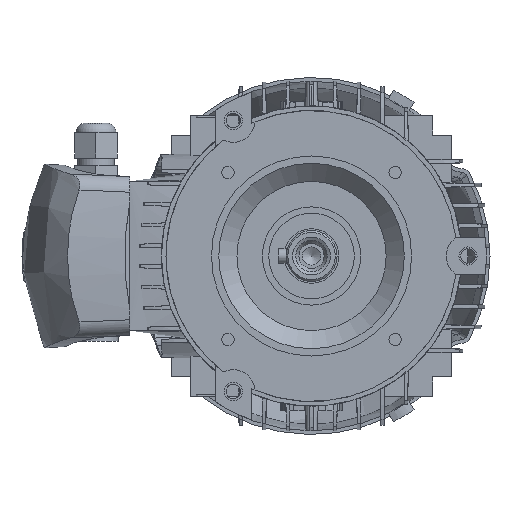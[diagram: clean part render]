
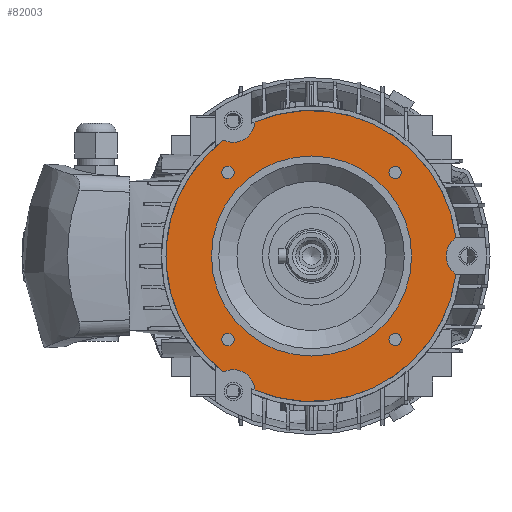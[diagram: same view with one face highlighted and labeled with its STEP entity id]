
A CAD part, left-side view. The second image highlights one B-rep face of the part: STEP entity #82003.
In plain terms, the highlighted planar face has unit normal (-1, 0, 0).
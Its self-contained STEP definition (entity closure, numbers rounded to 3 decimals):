
#81887=CARTESIAN_POINT('',(3.5,82.5,0.0));
#81888=DIRECTION('',(-1.0,0.0,0.0));
#81889=DIRECTION('',(0.0,0.0,1.0));
#81890=AXIS2_PLACEMENT_3D('',#81887,#81888,#81889);
#81891=PLANE('',#81890);
#81892=CARTESIAN_POINT('',(3.5,-79.372,-10.004));
#81893=VERTEX_POINT('',#81892);
#81894=CARTESIAN_POINT('',(3.5,-79.372,10.004));
#81895=VERTEX_POINT('',#81894);
#81896=CARTESIAN_POINT('',(3.5,-86.0,0.0));
#81897=DIRECTION('',(1.0,0.0,0.0));
#81898=DIRECTION('',(0.0,0.0,1.0));
#81899=AXIS2_PLACEMENT_3D('',#81896,#81897,#81898);
#81900=CIRCLE('',#81899,12.);
#81901=EDGE_CURVE('',#81893,#81895,#81900,.T.);
#81902=ORIENTED_EDGE('',*,*,#81901,.T.);
#81903=CARTESIAN_POINT('',(3.5,31.023,73.74));
#81904=VERTEX_POINT('',#81903);
#81905=CARTESIAN_POINT('',(3.5,0.0,0.0));
#81906=DIRECTION('',(-1.0,0.0,0.0));
#81907=DIRECTION('',(0.0,0.0,1.0));
#81908=AXIS2_PLACEMENT_3D('',#81905,#81906,#81907);
#81909=CIRCLE('',#81908,80.0);
#81910=EDGE_CURVE('',#81895,#81904,#81909,.T.);
#81911=ORIENTED_EDGE('',*,*,#81910,.T.);
#81912=CARTESIAN_POINT('',(3.5,48.349,63.736));
#81913=VERTEX_POINT('',#81912);
#81914=CARTESIAN_POINT('',(3.5,43.,74.478));
#81915=DIRECTION('',(1.0,0.0,0.0));
#81916=DIRECTION('',(0.0,0.0,1.0));
#81917=AXIS2_PLACEMENT_3D('',#81914,#81915,#81916);
#81918=CIRCLE('',#81917,12.);
#81919=EDGE_CURVE('',#81904,#81913,#81918,.T.);
#81920=ORIENTED_EDGE('',*,*,#81919,.T.);
#81921=CARTESIAN_POINT('',(3.5,48.349,-63.736));
#81922=VERTEX_POINT('',#81921);
#81923=CARTESIAN_POINT('',(3.5,0.0,0.0));
#81924=DIRECTION('',(-1.0,0.0,0.0));
#81925=DIRECTION('',(0.0,0.0,1.0));
#81926=AXIS2_PLACEMENT_3D('',#81923,#81924,#81925);
#81927=CIRCLE('',#81926,80.0);
#81928=EDGE_CURVE('',#81913,#81922,#81927,.T.);
#81929=ORIENTED_EDGE('',*,*,#81928,.T.);
#81930=CARTESIAN_POINT('',(3.5,31.023,-73.74));
#81931=VERTEX_POINT('',#81930);
#81932=CARTESIAN_POINT('',(3.5,43.,-74.478));
#81933=DIRECTION('',(1.0,0.0,0.0));
#81934=DIRECTION('',(0.0,0.0,1.0));
#81935=AXIS2_PLACEMENT_3D('',#81932,#81933,#81934);
#81936=CIRCLE('',#81935,12.);
#81937=EDGE_CURVE('',#81922,#81931,#81936,.T.);
#81938=ORIENTED_EDGE('',*,*,#81937,.T.);
#81939=CARTESIAN_POINT('',(3.5,0.0,0.0));
#81940=DIRECTION('',(-1.0,0.0,0.0));
#81941=DIRECTION('',(0.0,0.0,1.0));
#81942=AXIS2_PLACEMENT_3D('',#81939,#81940,#81941);
#81943=CIRCLE('',#81942,80.0);
#81944=EDGE_CURVE('',#81931,#81893,#81943,.T.);
#81945=ORIENTED_EDGE('',*,*,#81944,.T.);
#81946=EDGE_LOOP('',(#81902,#81911,#81920,#81929,#81938,#81945));
#81947=FACE_OUTER_BOUND('',#81946,.T.);
#81948=CARTESIAN_POINT('',(3.5,45.962,42.562));
#81949=VERTEX_POINT('',#81948);
#81950=CARTESIAN_POINT('',(3.5,45.962,45.962));
#81951=DIRECTION('',(1.0,0.0,0.0));
#81952=DIRECTION('',(0.0,0.0,-1.0));
#81953=AXIS2_PLACEMENT_3D('',#81950,#81951,#81952);
#81954=CIRCLE('',#81953,3.4);
#81955=EDGE_CURVE('',#81949,#81949,#81954,.T.);
#81956=ORIENTED_EDGE('',*,*,#81955,.T.);
#81957=EDGE_LOOP('',(#81956));
#81958=FACE_BOUND('',#81957,.T.);
#81959=CARTESIAN_POINT('',(3.5,-45.962,42.562));
#81960=VERTEX_POINT('',#81959);
#81961=CARTESIAN_POINT('',(3.5,-45.962,45.962));
#81962=DIRECTION('',(1.0,0.0,0.0));
#81963=DIRECTION('',(0.0,0.0,-1.0));
#81964=AXIS2_PLACEMENT_3D('',#81961,#81962,#81963);
#81965=CIRCLE('',#81964,3.4);
#81966=EDGE_CURVE('',#81960,#81960,#81965,.T.);
#81967=ORIENTED_EDGE('',*,*,#81966,.T.);
#81968=EDGE_LOOP('',(#81967));
#81969=FACE_BOUND('',#81968,.T.);
#81970=CARTESIAN_POINT('',(3.5,-45.962,-49.362));
#81971=VERTEX_POINT('',#81970);
#81972=CARTESIAN_POINT('',(3.5,-45.962,-45.962));
#81973=DIRECTION('',(1.0,0.0,0.0));
#81974=DIRECTION('',(0.0,0.0,-1.0));
#81975=AXIS2_PLACEMENT_3D('',#81972,#81973,#81974);
#81976=CIRCLE('',#81975,3.4);
#81977=EDGE_CURVE('',#81971,#81971,#81976,.T.);
#81978=ORIENTED_EDGE('',*,*,#81977,.T.);
#81979=EDGE_LOOP('',(#81978));
#81980=FACE_BOUND('',#81979,.T.);
#81981=CARTESIAN_POINT('',(3.5,45.962,-49.362));
#81982=VERTEX_POINT('',#81981);
#81983=CARTESIAN_POINT('',(3.5,45.962,-45.962));
#81984=DIRECTION('',(1.0,0.0,0.0));
#81985=DIRECTION('',(0.0,0.0,-1.0));
#81986=AXIS2_PLACEMENT_3D('',#81983,#81984,#81985);
#81987=CIRCLE('',#81986,3.4);
#81988=EDGE_CURVE('',#81982,#81982,#81987,.T.);
#81989=ORIENTED_EDGE('',*,*,#81988,.T.);
#81990=EDGE_LOOP('',(#81989));
#81991=FACE_BOUND('',#81990,.T.);
#81992=CARTESIAN_POINT('',(3.5,0.0,55.0));
#81993=VERTEX_POINT('',#81992);
#81994=CARTESIAN_POINT('',(3.5,0.0,0.0));
#81995=DIRECTION('',(1.0,0.0,0.0));
#81996=DIRECTION('',(0.0,0.0,1.0));
#81997=AXIS2_PLACEMENT_3D('',#81994,#81995,#81996);
#81998=CIRCLE('',#81997,55.0);
#81999=EDGE_CURVE('',#81993,#81993,#81998,.T.);
#82000=ORIENTED_EDGE('',*,*,#81999,.T.);
#82001=EDGE_LOOP('',(#82000));
#82002=FACE_BOUND('',#82001,.T.);
#82003=ADVANCED_FACE('',(#81947,#81958,#81969,#81980,#81991,#82002),#81891,.T.);
